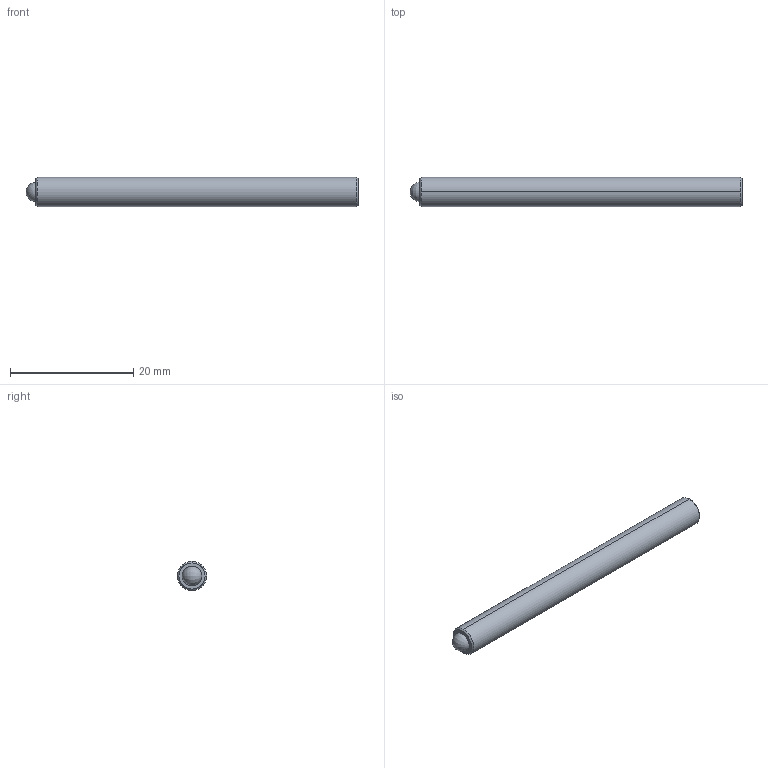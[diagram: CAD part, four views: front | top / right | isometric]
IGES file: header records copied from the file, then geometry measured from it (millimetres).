
Start section: SolidWorks IGES file using analytic representation for surfaces
Global section: file name: C:\Users\workpc\Desktop\KMA Solidworks\TS187-100-2125.IGS; native system: SolidWorks 2013; preprocessor: SolidWorks 2013; author: workpc; date: 130211.110433; units: inch
Bounding box: 53.97 x 4.75 x 4.75 mm (x, y, z)
Surface area: 875.8 mm2 (no closed solid volume)
Topology: 0 solids, 0 shells, 20 faces, 204 edges, 200 vertices
Faces by surface type: revolution 10, bspline 10
